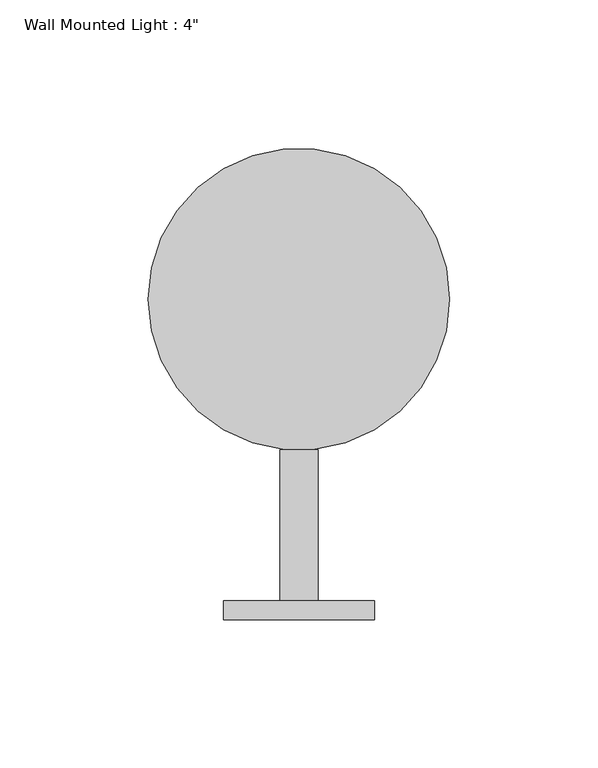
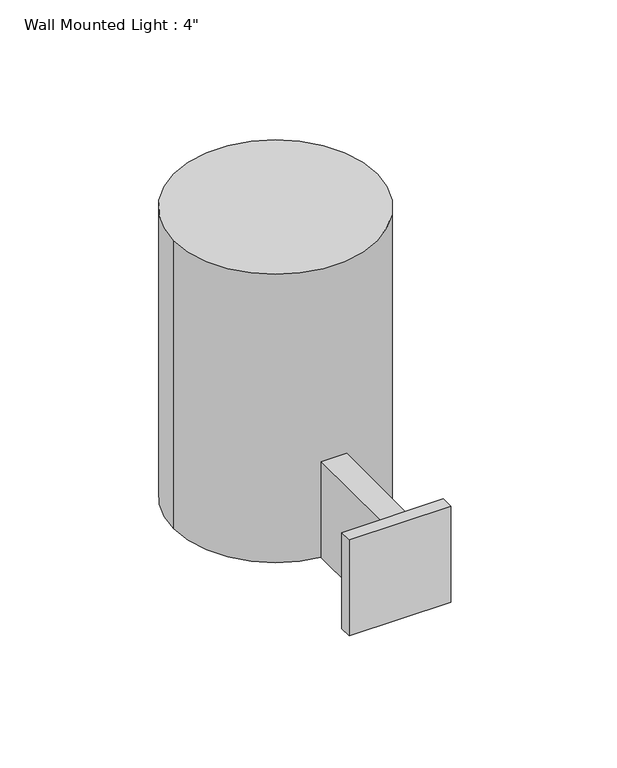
"""IFC4 building model written with IfcOpenShell, lengths in millimetres: light fixture geometry."""

import ifcopenshell
import ifcopenshell.guid

model = None  # the IFC model being written
_history = None  # IfcOwnerHistory: only IFC2X3 demands one
_inside = {}  # id of a spatial element -> (the spatial element, [elements in it])
_under = {}  # id of a project, library or spatial element -> (it, [spatial elements below it])
_declared = {}  # id of a project -> (the project, [libraries it declares])
_typed = {}  # id of a type object -> (the type object, [elements of that type])
_made_of = {}  # id of a material, layer set ... -> (it, [elements and type objects made of it])


def new_model(schema):
    """Start an empty IFC model of exactly this schema.

    Asked for "IFC4X3", IfcOpenShell would pick the latest addendum, in which some entities
    have other attributes; the version numbers below select the first issue.
    IFC2X3 requires an IfcOwnerHistory on every rooted entity: one is made here for all.
    """
    global model, _history
    if schema == "IFC4X3":
        model = ifcopenshell.file(schema_version=(4, 3, 0, 0))
    else:
        model = ifcopenshell.file(schema=schema)
    _inside.clear()
    _under.clear()
    _declared.clear()
    _typed.clear()
    _made_of.clear()
    _history = None
    if model.schema == "IFC2X3":
        org = make("IfcOrganization", Name="unknown")
        user = make(
            "IfcPersonAndOrganization",
            ThePerson=make("IfcPerson", FamilyName="unknown"),
            TheOrganization=org,
        )
        app = make(
            "IfcApplication",
            ApplicationDeveloper=org,
            Version="unknown",
            ApplicationFullName="unknown",
            ApplicationIdentifier="unknown",
        )
        _history = make(
            "IfcOwnerHistory",
            OwningUser=user,
            OwningApplication=app,
            ChangeAction="ADDED",
            CreationDate=0,
        )
    return model


def make(cls, **values):
    """One entity of the class cls with the attributes given. An attribute that is None is left unset."""
    return model.create_entity(
        cls, **{name: value for name, value in values.items() if value is not None}
    )


def rooted(cls, **values):
    """An entity with a GlobalId (a new one), such as an element, a storey or a relation."""
    return make(cls, GlobalId=ifcopenshell.guid.new(), OwnerHistory=_history, **values)


def si_unit(unit_type, name, prefix=None):
    """IfcSIUnit, for example si_unit("LENGTHUNIT", "METRE", prefix="MILLI")."""
    return make("IfcSIUnit", UnitType=unit_type, Prefix=prefix, Name=name)


def assignment(units):
    """IfcUnitAssignment: the units of a project."""
    return None if units is None else make("IfcUnitAssignment", Units=units)


def point(xyz):
    """IfcCartesianPoint."""
    return None if xyz is None else make("IfcCartesianPoint", Coordinates=xyz)


def direction(xyz):
    """IfcDirection."""
    return None if xyz is None else make("IfcDirection", DirectionRatios=xyz)


def frame(location, z_axis=None, x_axis=None):
    """IfcAxis2Placement3D, a coordinate frame: its origin and axes. An axis left out is left unset."""
    return make(
        "IfcAxis2Placement3D",
        Location=point(location),
        Axis=direction(z_axis),
        RefDirection=direction(x_axis),
    )


def frame_2d(location, x_axis=None):
    """IfcAxis2Placement2D, a coordinate frame in the plane: its origin and x axis."""
    return make(
        "IfcAxis2Placement2D", Location=point(location), RefDirection=direction(x_axis)
    )


def origin():
    """The frame at (0, 0, 0) with its axes left unset."""
    return frame((0.0, 0.0, 0.0))


def place(relative_to, where):
    """IfcLocalPlacement: puts the frame where relative to a parent placement (None: the world)."""
    return make(
        "IfcLocalPlacement", PlacementRelTo=relative_to, RelativePlacement=where
    )


def context(
    kind, dimensions, precision=None, world=None, true_north=None, identifier=None
):
    """IfcGeometricRepresentationContext, for example the 3D "Model" context."""
    return make(
        "IfcGeometricRepresentationContext",
        ContextIdentifier=identifier,
        ContextType=kind,
        CoordinateSpaceDimension=dimensions,
        Precision=precision,
        WorldCoordinateSystem=world,
        TrueNorth=true_north,
    )


def project(units=None, contexts=None):
    """IfcProject with its units and contexts."""
    return rooted(
        "IfcProject",
        Name="project",
        RepresentationContexts=contexts,
        UnitsInContext=assignment(units),
    )


def spatial(cls, under=None, at=None, **own):
    """A site, building, storey or space (cls), placed at a placement, below another one or the project."""
    s = rooted(cls, ObjectPlacement=at, **own)
    if under is not None:
        _under.setdefault(under.id(), (under, []))[1].append(s)
    return s


def polyline(points):
    """IfcPolyline through the points."""
    return make("IfcPolyline", Points=[point(p) for p in points])


def circle_curve(where, radius):
    """IfcCircle in the frame where."""
    return make("IfcCircle", Position=where, Radius=radius)


def trimmed(basis, trim1, trim2, sense, master):
    """IfcTrimmedCurve: the piece of a basis curve between two trims."""
    return make(
        "IfcTrimmedCurve",
        BasisCurve=basis,
        Trim1=trim1,
        Trim2=trim2,
        SenseAgreement=sense,
        MasterRepresentation=master,
    )


def segment(curve, same_sense, transition):
    """IfcCompositeCurveSegment."""
    return make(
        "IfcCompositeCurveSegment",
        Transition=transition,
        SameSense=same_sense,
        ParentCurve=curve,
    )


def composite_curve(segments, self_intersect=None):
    """IfcCompositeCurve: segments joined end to end."""
    return make("IfcCompositeCurve", Segments=segments, SelfIntersect=self_intersect)


def outline(outer, holes=None, kind="AREA"):
    """IfcArbitraryClosedProfileDef: a profile drawn as a closed curve; with holes, ...WithVoids."""
    if holes is None:
        return make("IfcArbitraryClosedProfileDef", ProfileType=kind, OuterCurve=outer)
    return make(
        "IfcArbitraryProfileDefWithVoids",
        ProfileType=kind,
        OuterCurve=outer,
        InnerCurves=holes,
    )


def extrude(swept, where, along, depth):
    """IfcExtrudedAreaSolid: the profile swept, set in the frame where, extruded along a direction by depth."""
    return make(
        "IfcExtrudedAreaSolid",
        SweptArea=swept,
        Position=where,
        ExtrudedDirection=direction(along),
        Depth=depth,
    )


def shape(context_of_items, identifier, shape_type, items):
    """IfcShapeRepresentation: the items that make up one representation, for example the "Body"."""
    return make(
        "IfcShapeRepresentation",
        ContextOfItems=context_of_items,
        RepresentationIdentifier=identifier,
        RepresentationType=shape_type,
        Items=items,
    )


def source(mapping_origin, context_of_items, identifier, shape_type, items):
    """IfcRepresentationMap: a shape defined once, which mapped items show again and again."""
    return make(
        "IfcRepresentationMap",
        MappingOrigin=mapping_origin,
        MappedRepresentation=shape(context_of_items, identifier, shape_type, items),
    )


def transform(
    local_origin,
    x_axis=None,
    y_axis=None,
    z_axis=None,
    scale=None,
    scale2=None,
    scale3=None,
    uniform=True,
):
    """IfcCartesianTransformationOperator3D, or its non-uniform kind. x_axis, y_axis, z_axis: its Axis1, 2, 3."""
    if uniform:
        return make(
            "IfcCartesianTransformationOperator3D",
            Axis1=direction(x_axis),
            Axis2=direction(y_axis),
            LocalOrigin=point(local_origin),
            Scale=scale,
            Axis3=direction(z_axis),
        )
    return make(
        "IfcCartesianTransformationOperator3DnonUniform",
        Axis1=direction(x_axis),
        Axis2=direction(y_axis),
        LocalOrigin=point(local_origin),
        Scale=scale,
        Axis3=direction(z_axis),
        Scale2=scale2,
        Scale3=scale3,
    )


def mapped(mapping_source, mapping_target):
    """IfcMappedItem: shows the shape of a source again, moved by a transform."""
    return make(
        "IfcMappedItem", MappingSource=mapping_source, MappingTarget=mapping_target
    )


def made_of(thing, what):
    """Note that an element or type object is made of a material, layer set ...; save() writes the relation."""
    if what is not None:
        _made_of.setdefault(what.id(), (what, []))[1].append(thing)
    return thing


def element(
    cls,
    number,
    at=None,
    inside=None,
    cuts=None,
    type_object=None,
    material=None,
    context=None,
    identifier="Body",
    shape_type=None,
    held_by="IfcProductDefinitionShape",
    body=None,
    shapes=None,
    **own,
):
    """One element of the class cls, such as IfcWall. Its Tag is "e" and its number.

    at: its placement. inside: the storey or other place that contains it. cuts: it is an
    opening in that element (IfcRelVoidsElement). A single representation is given by context,
    identifier, shape_type and body (its items); several are given by shapes. held_by: the class
    of the entity that holds the representations. save() writes the other relations.
    """
    e = rooted(cls, Tag="e%d" % number, ObjectPlacement=at, **own)
    if body is not None:
        shapes = [shape(context, identifier, shape_type, body)]
    if shapes is not None:
        e.Representation = make(held_by, Representations=shapes)
    if inside is not None:
        _inside.setdefault(inside.id(), (inside, []))[1].append(e)
    if cuts is not None:
        rooted(
            "IfcRelVoidsElement", RelatingBuildingElement=cuts, RelatedOpeningElement=e
        )
    if type_object is not None:
        _typed.setdefault(type_object.id(), (type_object, []))[1].append(e)
    return made_of(e, material)


def aggregate(whole, parts):
    """IfcRelAggregates: a whole, such as a stair, and the parts it consists of."""
    return rooted("IfcRelAggregates", RelatingObject=whole, RelatedObjects=parts)


def save(model, path):
    """Write the relations noted so far, then the file.

    IfcRelAggregates (storeys below a building ...), IfcRelContainedInSpatialStructure (elements
    in a storey), IfcRelDefinesByType, IfcRelAssociatesMaterial and IfcRelDeclares: one each for
    every whole, place, type object, material and project.
    """
    for whole, parts in _under.values():
        aggregate(whole, parts)
    for where, things in _inside.values():
        rooted(
            "IfcRelContainedInSpatialStructure",
            RelatedElements=things,
            RelatingStructure=where,
        )
    for kind, things in _typed.values():
        rooted("IfcRelDefinesByType", RelatedObjects=things, RelatingType=kind)
    for what, things in _made_of.values():
        rooted("IfcRelAssociatesMaterial", RelatedObjects=things, RelatingMaterial=what)
    for by, libraries in _declared.values():
        rooted("IfcRelDeclares", RelatingContext=by, RelatedDefinitions=libraries)
    model.write(path)


def light_fixture_968d4b6a(model_context):
    return source(origin(), model_context, "Body", "SweptSolid", [
        extrude(outline(polyline([(-25.4, 82.55), (25.4, 82.55), (25.4, 76.2), (-25.4, 76.2), (-25.4, 82.55)])), frame((0.0, 0.0, 5791.2), z_axis=(0.0, 0.0, 1.0), x_axis=(1.0, 0.0, 0.0)), (0.0, 0.0, 1.0), 50.8),
        extrude(outline(polyline([(6.35, 133.35), (6.35, 82.55), (-6.35, 82.55), (-6.35, 133.35), (6.35, 133.35)])), frame((0.0, 0.0, 5791.2), z_axis=(0.0, 0.0, 1.0), x_axis=(1.0, 0.0, 0.0)), (0.0, 0.0, 1.0), 50.8),
        extrude(outline(composite_curve([segment(trimmed(circle_curve(frame_2d((0.0, 184.15)), 50.8), [point((-50.8, 184.15))], [point((50.8, 184.15))], False, "CARTESIAN"), True, "CONTINUOUS"), segment(trimmed(circle_curve(frame_2d((0.0, 184.15)), 50.8), [point((50.8, 184.15))], [point((-50.8, 184.15))], False, "CARTESIAN"), True, "CONTINUOUS")], self_intersect=False)), frame((0.0, 0.0, 5791.2), z_axis=(0.0, 0.0, 1.0), x_axis=(1.0, 0.0, 0.0)), (0.0, 0.0, 1.0), 152.4),
    ])


if __name__ == "__main__":
    model = new_model("IFC4")
    model_context = context("Model", 3, world=origin())
    ifc_project = project(units=[si_unit("LENGTHUNIT", "METRE", prefix="MILLI")], contexts=[model_context])
    site = spatial("IfcSite", under=ifc_project)
    building = spatial("IfcBuilding", under=site)
    placement = place(None, origin())
    light_fixture_shape = light_fixture_968d4b6a(model_context)
    element("IfcLightFixture", 1, ObjectType="Wall Mounted Light : 4\"", at=placement, inside=building, context=model_context, shape_type="MappedRepresentation", body=[
        mapped(light_fixture_shape, transform((0.0, 0.0, 0.0), x_axis=(1.0, 0.0, 0.0), y_axis=(0.0, 1.0, 0.0), z_axis=(0.0, 0.0, 1.0))),
    ])
    save(model, "model.ifc")
